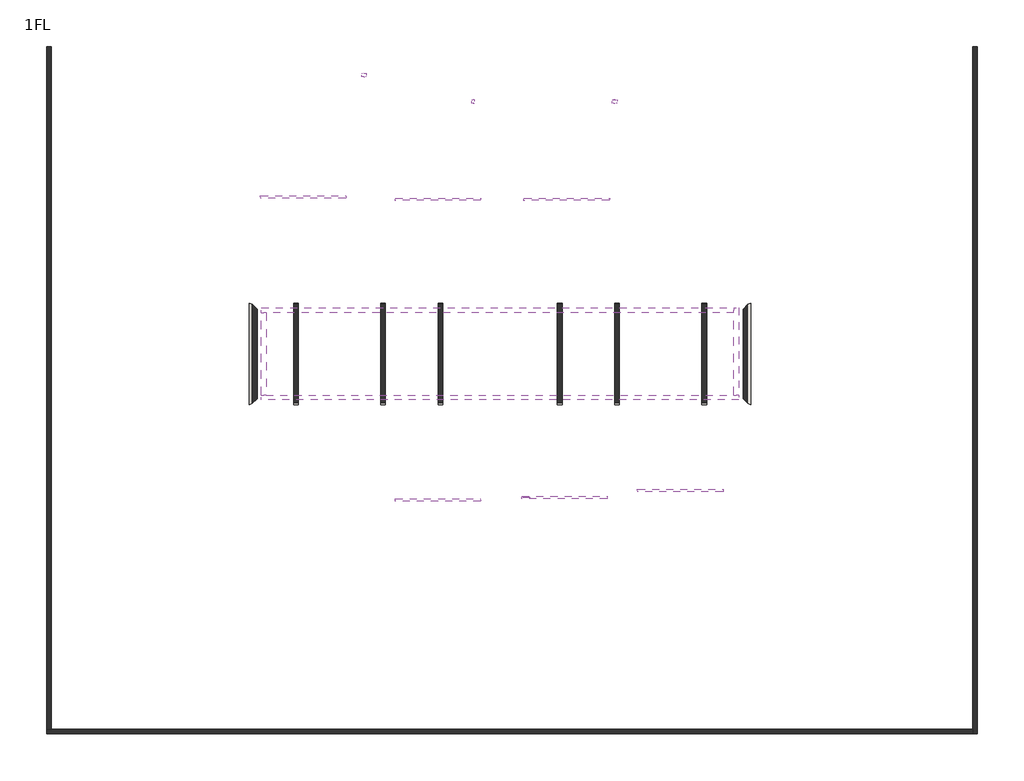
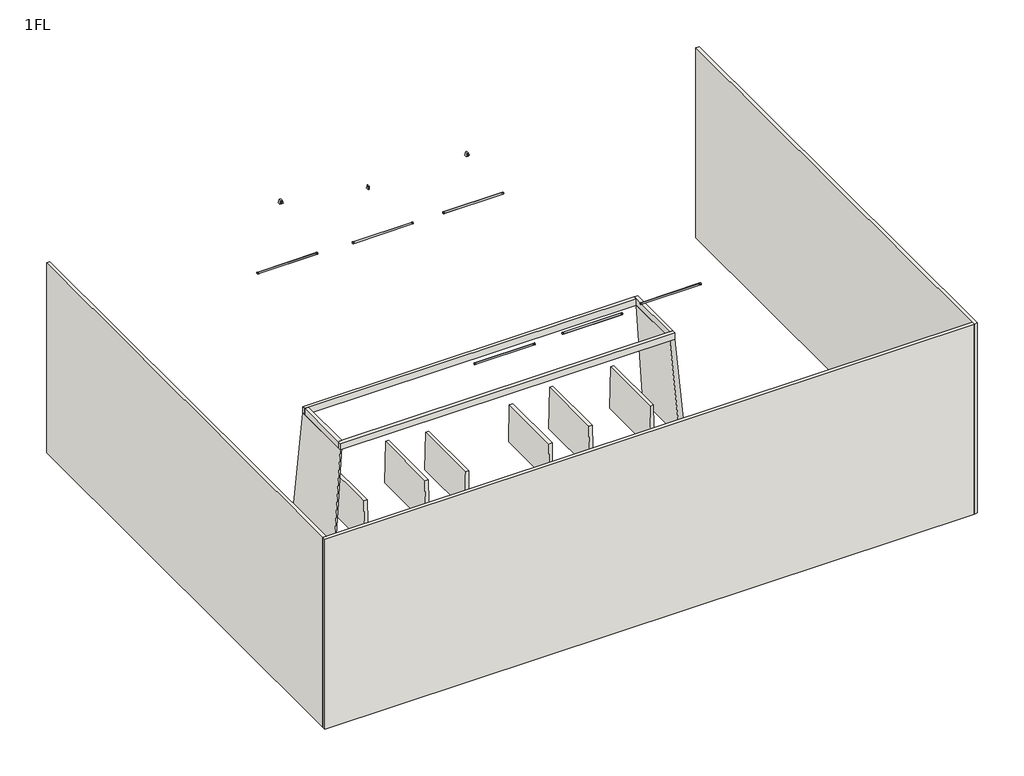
# One storey, incomplete: 15 walls, 10 light fixtures.
"""IFC4 building model written with IfcOpenShell, lengths in millimetres."""

import ifcopenshell
import ifcopenshell.guid

model = None  # the IFC model being written
_history = None  # IfcOwnerHistory: only IFC2X3 demands one
_inside = {}  # id of a spatial element -> (the spatial element, [elements in it])
_under = {}  # id of a project, library or spatial element -> (it, [spatial elements below it])
_declared = {}  # id of a project -> (the project, [libraries it declares])
_typed = {}  # id of a type object -> (the type object, [elements of that type])
_made_of = {}  # id of a material, layer set ... -> (it, [elements and type objects made of it])


def new_model(schema):
    """Start an empty IFC model of exactly this schema.

    Asked for "IFC4X3", IfcOpenShell would pick the latest addendum, in which some entities
    have other attributes; the version numbers below select the first issue.
    IFC2X3 requires an IfcOwnerHistory on every rooted entity: one is made here for all.
    """
    global model, _history
    if schema == "IFC4X3":
        model = ifcopenshell.file(schema_version=(4, 3, 0, 0))
    else:
        model = ifcopenshell.file(schema=schema)
    _inside.clear()
    _under.clear()
    _declared.clear()
    _typed.clear()
    _made_of.clear()
    _history = None
    if model.schema == "IFC2X3":
        org = make("IfcOrganization", Name="unknown")
        user = make(
            "IfcPersonAndOrganization",
            ThePerson=make("IfcPerson", FamilyName="unknown"),
            TheOrganization=org,
        )
        app = make(
            "IfcApplication",
            ApplicationDeveloper=org,
            Version="unknown",
            ApplicationFullName="unknown",
            ApplicationIdentifier="unknown",
        )
        _history = make(
            "IfcOwnerHistory",
            OwningUser=user,
            OwningApplication=app,
            ChangeAction="ADDED",
            CreationDate=0,
        )
    return model


def make(cls, **values):
    """One entity of the class cls with the attributes given. An attribute that is None is left unset."""
    return model.create_entity(
        cls, **{name: value for name, value in values.items() if value is not None}
    )


def rooted(cls, **values):
    """An entity with a GlobalId (a new one), such as an element, a storey or a relation."""
    return make(cls, GlobalId=ifcopenshell.guid.new(), OwnerHistory=_history, **values)


def si_unit(unit_type, name, prefix=None):
    """IfcSIUnit, for example si_unit("LENGTHUNIT", "METRE", prefix="MILLI")."""
    return make("IfcSIUnit", UnitType=unit_type, Prefix=prefix, Name=name)


def assignment(units):
    """IfcUnitAssignment: the units of a project."""
    return None if units is None else make("IfcUnitAssignment", Units=units)


def point(xyz):
    """IfcCartesianPoint."""
    return None if xyz is None else make("IfcCartesianPoint", Coordinates=xyz)


def direction(xyz):
    """IfcDirection."""
    return None if xyz is None else make("IfcDirection", DirectionRatios=xyz)


def frame(location, z_axis=None, x_axis=None):
    """IfcAxis2Placement3D, a coordinate frame: its origin and axes. An axis left out is left unset."""
    return make(
        "IfcAxis2Placement3D",
        Location=point(location),
        Axis=direction(z_axis),
        RefDirection=direction(x_axis),
    )


def frame_2d(location, x_axis=None):
    """IfcAxis2Placement2D, a coordinate frame in the plane: its origin and x axis."""
    return make(
        "IfcAxis2Placement2D", Location=point(location), RefDirection=direction(x_axis)
    )


def origin():
    """The frame at (0, 0, 0) with its axes left unset."""
    return frame((0.0, 0.0, 0.0))


def place(relative_to, where):
    """IfcLocalPlacement: puts the frame where relative to a parent placement (None: the world)."""
    return make(
        "IfcLocalPlacement", PlacementRelTo=relative_to, RelativePlacement=where
    )


def context(
    kind, dimensions, precision=None, world=None, true_north=None, identifier=None
):
    """IfcGeometricRepresentationContext, for example the 3D "Model" context."""
    return make(
        "IfcGeometricRepresentationContext",
        ContextIdentifier=identifier,
        ContextType=kind,
        CoordinateSpaceDimension=dimensions,
        Precision=precision,
        WorldCoordinateSystem=world,
        TrueNorth=true_north,
    )


def project(units=None, contexts=None):
    """IfcProject with its units and contexts."""
    return rooted(
        "IfcProject",
        Name="project",
        RepresentationContexts=contexts,
        UnitsInContext=assignment(units),
    )


def spatial(cls, under=None, at=None, **own):
    """A site, building, storey or space (cls), placed at a placement, below another one or the project."""
    s = rooted(cls, ObjectPlacement=at, **own)
    if under is not None:
        _under.setdefault(under.id(), (under, []))[1].append(s)
    return s


def polyline(points):
    """IfcPolyline through the points."""
    return make("IfcPolyline", Points=[point(p) for p in points])


def circle_curve(where, radius):
    """IfcCircle in the frame where."""
    return make("IfcCircle", Position=where, Radius=radius)


def trimmed(basis, trim1, trim2, sense, master):
    """IfcTrimmedCurve: the piece of a basis curve between two trims."""
    return make(
        "IfcTrimmedCurve",
        BasisCurve=basis,
        Trim1=trim1,
        Trim2=trim2,
        SenseAgreement=sense,
        MasterRepresentation=master,
    )


def segment(curve, same_sense, transition):
    """IfcCompositeCurveSegment."""
    return make(
        "IfcCompositeCurveSegment",
        Transition=transition,
        SameSense=same_sense,
        ParentCurve=curve,
    )


def composite_curve(segments, self_intersect=None):
    """IfcCompositeCurve: segments joined end to end."""
    return make("IfcCompositeCurve", Segments=segments, SelfIntersect=self_intersect)


def outline(outer, holes=None, kind="AREA"):
    """IfcArbitraryClosedProfileDef: a profile drawn as a closed curve; with holes, ...WithVoids."""
    if holes is None:
        return make("IfcArbitraryClosedProfileDef", ProfileType=kind, OuterCurve=outer)
    return make(
        "IfcArbitraryProfileDefWithVoids",
        ProfileType=kind,
        OuterCurve=outer,
        InnerCurves=holes,
    )


def extrude(swept, where, along, depth):
    """IfcExtrudedAreaSolid: the profile swept, set in the frame where, extruded along a direction by depth."""
    return make(
        "IfcExtrudedAreaSolid",
        SweptArea=swept,
        Position=where,
        ExtrudedDirection=direction(along),
        Depth=depth,
    )


def faces_of(points, faces, orient=None, outer=None):
    """IfcFace entities. A face is a list of loops; a loop is a list of indices into points, from 0.

    orient and outer hold one flag for each loop. By default every Orientation is true, the
    first loop of a face is its IfcFaceOuterBound and the others are IfcFaceBound.
    """
    made = []
    for i, loops in enumerate(faces):
        bounds = []
        for j, loop in enumerate(loops):
            is_outer = j == 0 if outer is None else outer[i][j]
            bounds.append(
                make(
                    "IfcFaceOuterBound" if is_outer else "IfcFaceBound",
                    Bound=make("IfcPolyLoop", Polygon=[points[k] for k in loop]),
                    Orientation=True if orient is None else orient[i][j],
                )
            )
        made.append(make("IfcFace", Bounds=bounds))
    return made


def faceted_brep(points, faces, orient=None, outer=None, voids=None):
    """IfcFacetedBrep: a solid bounded by flat faces; with voids (closed shells), ...WithVoids."""
    shared = [point(p) for p in points]
    hull = make("IfcClosedShell", CfsFaces=faces_of(shared, faces, orient, outer))
    if voids is None:
        return make("IfcFacetedBrep", Outer=hull)
    return make(
        "IfcFacetedBrepWithVoids",
        Outer=hull,
        Voids=[
            make(cls, CfsFaces=faces_of(shared, fs, o, b)) for cls, fs, o, b in voids
        ],
    )


def shape(context_of_items, identifier, shape_type, items):
    """IfcShapeRepresentation: the items that make up one representation, for example the "Body"."""
    return make(
        "IfcShapeRepresentation",
        ContextOfItems=context_of_items,
        RepresentationIdentifier=identifier,
        RepresentationType=shape_type,
        Items=items,
    )


def source(mapping_origin, context_of_items, identifier, shape_type, items):
    """IfcRepresentationMap: a shape defined once, which mapped items show again and again."""
    return make(
        "IfcRepresentationMap",
        MappingOrigin=mapping_origin,
        MappedRepresentation=shape(context_of_items, identifier, shape_type, items),
    )


def transform(
    local_origin,
    x_axis=None,
    y_axis=None,
    z_axis=None,
    scale=None,
    scale2=None,
    scale3=None,
    uniform=True,
):
    """IfcCartesianTransformationOperator3D, or its non-uniform kind. x_axis, y_axis, z_axis: its Axis1, 2, 3."""
    if uniform:
        return make(
            "IfcCartesianTransformationOperator3D",
            Axis1=direction(x_axis),
            Axis2=direction(y_axis),
            LocalOrigin=point(local_origin),
            Scale=scale,
            Axis3=direction(z_axis),
        )
    return make(
        "IfcCartesianTransformationOperator3DnonUniform",
        Axis1=direction(x_axis),
        Axis2=direction(y_axis),
        LocalOrigin=point(local_origin),
        Scale=scale,
        Axis3=direction(z_axis),
        Scale2=scale2,
        Scale3=scale3,
    )


def mapped(mapping_source, mapping_target):
    """IfcMappedItem: shows the shape of a source again, moved by a transform."""
    return make(
        "IfcMappedItem", MappingSource=mapping_source, MappingTarget=mapping_target
    )


def made_of(thing, what):
    """Note that an element or type object is made of a material, layer set ...; save() writes the relation."""
    if what is not None:
        _made_of.setdefault(what.id(), (what, []))[1].append(thing)
    return thing


def element(
    cls,
    number,
    at=None,
    inside=None,
    cuts=None,
    type_object=None,
    material=None,
    context=None,
    identifier="Body",
    shape_type=None,
    held_by="IfcProductDefinitionShape",
    body=None,
    shapes=None,
    **own,
):
    """One element of the class cls, such as IfcWall. Its Tag is "e" and its number.

    at: its placement. inside: the storey or other place that contains it. cuts: it is an
    opening in that element (IfcRelVoidsElement). A single representation is given by context,
    identifier, shape_type and body (its items); several are given by shapes. held_by: the class
    of the entity that holds the representations. save() writes the other relations.
    """
    e = rooted(cls, Tag="e%d" % number, ObjectPlacement=at, **own)
    if body is not None:
        shapes = [shape(context, identifier, shape_type, body)]
    if shapes is not None:
        e.Representation = make(held_by, Representations=shapes)
    if inside is not None:
        _inside.setdefault(inside.id(), (inside, []))[1].append(e)
    if cuts is not None:
        rooted(
            "IfcRelVoidsElement", RelatingBuildingElement=cuts, RelatedOpeningElement=e
        )
    if type_object is not None:
        _typed.setdefault(type_object.id(), (type_object, []))[1].append(e)
    return made_of(e, material)


def aggregate(whole, parts):
    """IfcRelAggregates: a whole, such as a stair, and the parts it consists of."""
    return rooted("IfcRelAggregates", RelatingObject=whole, RelatedObjects=parts)


def save(model, path):
    """Write the relations noted so far, then the file.

    IfcRelAggregates (storeys below a building ...), IfcRelContainedInSpatialStructure (elements
    in a storey), IfcRelDefinesByType, IfcRelAssociatesMaterial and IfcRelDeclares: one each for
    every whole, place, type object, material and project.
    """
    for whole, parts in _under.values():
        aggregate(whole, parts)
    for where, things in _inside.values():
        rooted(
            "IfcRelContainedInSpatialStructure",
            RelatedElements=things,
            RelatingStructure=where,
        )
    for kind, things in _typed.values():
        rooted("IfcRelDefinesByType", RelatedObjects=things, RelatingType=kind)
    for what, things in _made_of.values():
        rooted("IfcRelAssociatesMaterial", RelatedObjects=things, RelatingMaterial=what)
    for by, libraries in _declared.values():
        rooted("IfcRelDeclares", RelatingContext=by, RelatedDefinitions=libraries)
    model.write(path)


def light_fixture_87da6989(model_context):
    return source(origin(), model_context, "Body", "SweptSolid", [
        extrude(outline(composite_curve([segment(trimmed(circle_curve(frame_2d((0.0, 11987.3)), 6.35), [point((-6.35, 11987.3))], [point((6.35, 11987.3))], False, "CARTESIAN"), True, "CONTINUOUS"), segment(trimmed(circle_curve(frame_2d((0.0, 11987.3)), 6.35), [point((6.35, 11987.3))], [point((-6.35, 11987.3))], False, "CARTESIAN"), True, "CONTINUOUS")], self_intersect=False)), frame((-130.95, 0.0, 0.0), z_axis=(1.0, 0.0, 0.0), x_axis=(0.0, 1.0, 0.0)), (0.0, 0.0, 1.0), 261.9),
        extrude(outline(composite_curve([segment(polyline([(-7.9375, 12000.0), (7.9375, 12000.0), (7.9375, 11987.3)]), True, "CONTINUOUS"), segment(trimmed(circle_curve(frame_2d((0.0, 11987.3)), 7.9375), [point((7.9375, 11987.3))], [point((-7.9375, 11987.3))], False, "CARTESIAN"), True, "CONTINUOUS"), segment(polyline([(-7.9375, 11987.3), (-7.9375, 12000.0)]), True, "CONTINUOUS")], self_intersect=False)), frame((130.95, 0.0, 0.0), z_axis=(1.0, 0.0, 0.0), x_axis=(0.0, 1.0, 0.0)), (0.0, 0.0, 1.0), 19.05),
        extrude(outline(composite_curve([segment(polyline([(7.9375, 12000.0), (7.9375, 11987.3)]), True, "CONTINUOUS"), segment(trimmed(circle_curve(frame_2d((0.0, 11987.3)), 7.9375), [point((7.9375, 11987.3))], [point((-7.9375, 11987.3))], False, "CARTESIAN"), True, "CONTINUOUS"), segment(polyline([(-7.9375, 11987.3), (-7.9375, 12000.0), (7.9375, 12000.0)]), True, "CONTINUOUS")], self_intersect=False)), frame((-150.0, 0.0, 0.0), z_axis=(1.0, 0.0, 0.0), x_axis=(0.0, 1.0, 0.0)), (0.0, 0.0, 1.0), 19.05),
        extrude(outline(polyline([(130.95, 7.9375), (130.95, -7.9375), (-130.95, -7.9375), (-130.95, 7.9375), (130.95, 7.9375)])), frame((0.0, 0.0, 11996.7197499), z_axis=(0.0, 0.0, 1.0), x_axis=(1.0, 0.0, 0.0)), (0.0, 0.0, 1.0), 3.2802501),
    ])


def light_fixture_135121fe(model_context):
    return source(origin(), model_context, "Body", "SweptSolid", [
        extrude(outline(composite_curve([segment(trimmed(circle_curve(frame_2d((2286.0, 0.0)), 12.7), [point((2286.0, -12.7))], [point((2286.0, 12.7))], False, "CARTESIAN"), True, "CONTINUOUS"), segment(polyline([(2286.0, 12.7), (2438.4, 12.7), (2438.4, -12.7), (2286.0, -12.7)]), True, "CONTINUOUS")], self_intersect=False)), frame((0.0, 76.2, 0.0), z_axis=(0.0, 1.0, 0.0), x_axis=(0.0, 0.0, 1.0)), (0.0, 0.0, 1.0), 12.7),
        extrude(outline(composite_curve([segment(trimmed(circle_curve(frame_2d((2286.0, 0.0)), 12.7), [point((2286.0, -12.7))], [point((2286.0, 12.7))], False, "CARTESIAN"), True, "CONTINUOUS"), segment(polyline([(2286.0, 12.7), (2438.4, 12.7), (2438.4, -12.7), (2286.0, -12.7)]), True, "CONTINUOUS")], self_intersect=False)), frame((0.0, -88.9, 0.0), z_axis=(0.0, 1.0, 0.0), x_axis=(0.0, 0.0, 1.0)), (0.0, 0.0, 1.0), 12.7),
        extrude(outline(polyline([(2486.0, 33.3469894), (2486.0, -33.3196774), (2286.0, -99.9863441), (2286.0, 0.0136559), (2286.0, 100.0136559), (2486.0, 33.3469894)])), frame((0.0, -76.2, 0.0), z_axis=(0.0, 1.0, 0.0), x_axis=(0.0, 0.0, 1.0)), (0.0, 0.0, 1.0), 152.4),
    ])


def light_fixture_da8946fe(model_context):
    return source(origin(), model_context, "Body", "SweptSolid", [
        extrude(outline(composite_curve([segment(trimmed(circle_curve(frame_2d((2286.0, 0.0)), 12.7), [point((2286.0, -12.7))], [point((2286.0, 12.7))], False, "CARTESIAN"), True, "CONTINUOUS"), segment(polyline([(2286.0, 12.7), (2438.4, 12.7), (2438.4, -12.7), (2286.0, -12.7)]), True, "CONTINUOUS")], self_intersect=False)), frame((0.0, 76.2, 0.0), z_axis=(0.0, 1.0, 0.0), x_axis=(0.0, 0.0, 1.0)), (0.0, 0.0, 1.0), 12.7),
        extrude(outline(composite_curve([segment(trimmed(circle_curve(frame_2d((2286.0, 0.0)), 12.7), [point((2286.0, -12.7))], [point((2286.0, 12.7))], False, "CARTESIAN"), True, "CONTINUOUS"), segment(polyline([(2286.0, 12.7), (2438.4, 12.7), (2438.4, -12.7), (2286.0, -12.7)]), True, "CONTINUOUS")], self_intersect=False)), frame((0.0, -88.9, 0.0), z_axis=(0.0, 1.0, 0.0), x_axis=(0.0, 0.0, 1.0)), (0.0, 0.0, 1.0), 12.7),
        extrude(outline(polyline([(2336.1123082, -62.6244663), (2287.8747536, -80.1815003), (2238.0756763, -17.4293714), (2286.0, 0.0136559), (2333.9243237, 17.4566832), (2336.1123082, -62.6244663)])), frame((0.0, -76.2, 0.0), z_axis=(0.0, 1.0, 0.0), x_axis=(0.0, 0.0, 1.0)), (0.0, 0.0, 1.0), 152.4),
    ])


def m_suspended_linear_2_2400mm_e0d50ca2(model_context):
    return source(origin(), model_context, "Body", "SweptSolid", [
        extrude(outline(polyline([(1762.1084676, 25.4), (1762.1084676, -25.4), (-1761.9, -25.4), (-1761.9, 25.4), (1762.1084676, 25.4)])), frame((0.0, 0.0, 2412.7), z_axis=(0.0, 0.0, 1.0), x_axis=(1.0, 0.0, 0.0)), (0.0, 0.0, 1.0), 12.7),
        extrude(outline(composite_curve([segment(trimmed(circle_curve(frame_2d((0.0, 2450.8)), 50.8), [point((-50.8, 2450.8))], [point((50.8, 2450.8))], False, "CARTESIAN"), True, "CONTINUOUS"), segment(trimmed(circle_curve(frame_2d((0.0, 2450.8)), 50.8), [point((50.8, 2450.8))], [point((-50.8, 2450.8))], False, "CARTESIAN"), True, "CONTINUOUS")], self_intersect=False)), frame((1762.1084676, 0.0, 0.0), z_axis=(1.0, 0.0, 0.0), x_axis=(0.0, 1.0, 0.0)), (0.0, 0.0, 1.0), 37.8915324),
        extrude(outline(composite_curve([segment(trimmed(circle_curve(frame_2d((-1.1165929, 2450.8)), 50.81227), [point((49.6956771, 2450.8))], [point((-51.9288628, 2450.8))], False, "CARTESIAN"), True, "CONTINUOUS"), segment(trimmed(circle_curve(frame_2d((-1.1165929, 2450.8)), 50.81227), [point((-51.9288628, 2450.8))], [point((49.6956771, 2450.8))], False, "CARTESIAN"), True, "CONTINUOUS")], self_intersect=False)), frame((-1800.0, 0.0, 0.0), z_axis=(1.0, 0.0, 0.0), x_axis=(0.0, 1.0, 0.0)), (0.0, 0.0, 1.0), 38.1),
        extrude(outline(composite_curve([segment(trimmed(circle_curve(frame_2d((0.0, 2450.8)), 50.8), [point((-25.4, 2406.8059095))], [point((0.0, 2501.6))], False, "CARTESIAN"), True, "CONTINUOUS"), segment(trimmed(circle_curve(frame_2d((0.0, 2450.8)), 50.8), [point((0.0, 2501.6))], [point((25.4, 2406.8059095))], False, "CARTESIAN"), True, "CONTINUOUS"), segment(polyline([(25.4, 2406.8059095), (25.4, 2438.1), (-25.4, 2438.1), (-25.4, 2406.8059095)]), True, "CONTINUOUS")], self_intersect=False)), frame((-1761.9, 0.0, 0.0), z_axis=(1.0, 0.0, 0.0), x_axis=(0.0, 1.0, 0.0)), (0.0, 0.0, 1.0), 3524.0084676),
        extrude(outline(composite_curve([segment(trimmed(circle_curve(frame_2d((-1723.8883785, 0.0)), 25.4), [point((-1749.2883785, 0.0))], [point((-1698.4883785, 0.0))], False, "CARTESIAN"), True, "CONTINUOUS"), segment(trimmed(circle_curve(frame_2d((-1723.8883785, 0.0)), 25.4), [point((-1698.4883785, 0.0))], [point((-1749.2883785, 0.0))], False, "CARTESIAN"), True, "CONTINUOUS")], self_intersect=False)), frame((0.0, 0.0, 2425.7), z_axis=(0.0, 0.0, 1.0), x_axis=(1.0, 0.0, 0.0)), (0.0, 0.0, 1.0), 12.7),
        extrude(outline(composite_curve([segment(trimmed(circle_curve(frame_2d((1723.8, 0.0)), 25.4), [point((1698.4, 0.0))], [point((1749.2, 0.0))], False, "CARTESIAN"), True, "CONTINUOUS"), segment(trimmed(circle_curve(frame_2d((1723.8, 0.0)), 25.4), [point((1749.2, 0.0))], [point((1698.4, 0.0))], False, "CARTESIAN"), True, "CONTINUOUS")], self_intersect=False)), frame((0.0, 0.0, 2425.7), z_axis=(0.0, 0.0, 1.0), x_axis=(1.0, 0.0, 0.0)), (0.0, 0.0, 1.0), 12.7),
        extrude(outline(composite_curve([segment(trimmed(circle_curve(frame_2d((-1723.8, 0.0)), 3.175), [point((-1723.8, 3.175))], [point((-1723.8, -3.175))], False, "CARTESIAN"), True, "CONTINUOUS"), segment(trimmed(circle_curve(frame_2d((-1723.8, 0.0)), 3.175), [point((-1723.8, -3.175))], [point((-1723.8, 3.175))], False, "CARTESIAN"), True, "CONTINUOUS")], self_intersect=False)), frame((0.0, 0.0, 2425.7), z_axis=(0.0, 0.0, 1.0), x_axis=(1.0, 0.0, 0.0)), (0.0, 0.0, 1.0), 63.2),
        extrude(outline(composite_curve([segment(trimmed(circle_curve(frame_2d((1723.8, 0.0)), 3.175), [point((1723.8, 3.175))], [point((1723.8, -3.175))], False, "CARTESIAN"), True, "CONTINUOUS"), segment(trimmed(circle_curve(frame_2d((1723.8, 0.0)), 3.175), [point((1723.8, -3.175))], [point((1723.8, 3.175))], False, "CARTESIAN"), True, "CONTINUOUS")], self_intersect=False)), frame((0.0, 0.0, 2425.7), z_axis=(0.0, 0.0, 1.0), x_axis=(1.0, 0.0, 0.0)), (0.0, 0.0, 1.0), 63.2),
    ])


model = new_model("IFC4")

# Units and contexts
model_context = context("Model", 3, world=origin())
ifc_project = project(units=[si_unit("LENGTHUNIT", "METRE", prefix="MILLI")], contexts=[model_context])

# Site, building, storey
site = spatial("IfcSite", under=ifc_project)
building = spatial("IfcBuilding", under=site)
storey = spatial("IfcBuildingStorey", under=building, Name="1FL", Elevation=300.0)

# Light fixtures
placement = place(None, origin())
light_fixture_shape = light_fixture_87da6989(model_context)
element("IfcLightFixture", 1, ObjectType="層板燈 (3)-向下照射 : 10W層板燈-TEST", at=placement, inside=storey, context=model_context, shape_type="MappedRepresentation", body=[
    mapped(light_fixture_shape, transform((1234.5714763, -6566.2980256, 300.0), x_axis=(1.0, 0.0, 0.0), y_axis=(0.0, 1.0, 0.0), z_axis=(0.0, 0.0, 1.0))),
])
light_fixture_2_shape = light_fixture_135121fe(model_context)
element("IfcLightFixture", 2, ObjectType="M_嵌燈 - 聚光燈 : 傾斜 90 度", at=placement, inside=storey, context=model_context, shape_type="MappedRepresentation", body=[
    mapped(light_fixture_2_shape, transform((4934.5714763, 10035.3015503, 9861.6), x_axis=(1.0, 0.0, 0.0), y_axis=(0.0, 1.0, 0.0), z_axis=(0.0, 0.0, 1.0))),
])
element("IfcLightFixture", 3, ObjectType="M_嵌燈 - 聚光燈 : 傾斜 90 度", at=placement, inside=storey, context=model_context, shape_type="MappedRepresentation", body=[
    mapped(light_fixture_2_shape, transform((-5565.4285237, 11135.3015503, 9861.6), x_axis=(1.0, 0.0, 0.0), y_axis=(0.0, 1.0, 0.0), z_axis=(0.0, 0.0, 1.0))),
])
light_fixture_3_shape = light_fixture_da8946fe(model_context)
element("IfcLightFixture", 4, ObjectType="M_嵌燈 - 聚光燈 : 160度-瓦數100", at=placement, inside=storey, context=model_context, shape_type="MappedRepresentation", body=[
    mapped(light_fixture_3_shape, transform((-965.4285237, 10035.3015503, 9861.6), x_axis=(1.0, 0.0, 0.0), y_axis=(0.0, 1.0, 0.0), z_axis=(0.0, 0.0, 1.0))),
])
m_suspended_linear_2_2400mm_shape = m_suspended_linear_2_2400mm_e0d50ca2(model_context)
element("IfcLightFixture", 5, ObjectType="M_Suspended Linear 2 : 2400mm", at=placement, inside=storey, context=model_context, shape_type="MappedRepresentation", body=[
    mapped(m_suspended_linear_2_2400mm_shape, transform((2934.5714763, 5935.3015503, 9874.3), x_axis=(1.0, 0.0, 0.0), y_axis=(0.0, 1.0, 0.0), z_axis=(0.0, 0.0, 1.0))),
])
element("IfcLightFixture", 6, ObjectType="M_Suspended Linear 2 : 2400mm", at=placement, inside=storey, context=model_context, shape_type="MappedRepresentation", body=[
    mapped(m_suspended_linear_2_2400mm_shape, transform((-2465.4285237, 5935.3015503, 9874.3), x_axis=(1.0, 0.0, 0.0), y_axis=(0.0, 1.0, 0.0), z_axis=(0.0, 0.0, 1.0))),
])
element("IfcLightFixture", 7, ObjectType="M_Suspended Linear 2 : 2400mm", at=placement, inside=storey, context=model_context, shape_type="MappedRepresentation", body=[
    mapped(m_suspended_linear_2_2400mm_shape, transform((-8115.4285237, 6035.3015503, 9874.3), x_axis=(1.0, 0.0, 0.0), y_axis=(0.0, 1.0, 0.0), z_axis=(0.0, 0.0, 1.0))),
])
element("IfcLightFixture", 8, ObjectType="M_Suspended Linear 2 : 2400mm", at=placement, inside=storey, context=model_context, shape_type="MappedRepresentation", body=[
    mapped(m_suspended_linear_2_2400mm_shape, transform((7684.5714763, -6264.6984497, 9874.3), x_axis=(1.0, 0.0, 0.0), y_axis=(0.0, 1.0, 0.0), z_axis=(0.0, 0.0, 1.0))),
])
element("IfcLightFixture", 9, ObjectType="M_Suspended Linear 2 : 2400mm", at=placement, inside=storey, context=model_context, shape_type="MappedRepresentation", body=[
    mapped(m_suspended_linear_2_2400mm_shape, transform((2834.5714763, -6564.6984497, 9874.3), x_axis=(1.0, 0.0, 0.0), y_axis=(0.0, 1.0, 0.0), z_axis=(0.0, 0.0, 1.0))),
])
element("IfcLightFixture", 10, ObjectType="M_Suspended Linear 2 : 2400mm-990515-test", at=placement, inside=storey, context=model_context, shape_type="MappedRepresentation", body=[
    mapped(m_suspended_linear_2_2400mm_shape, transform((-2465.4285237, -6664.6984497, 9874.3), x_axis=(1.0, 0.0, 0.0), y_axis=(0.0, 1.0, 0.0), z_axis=(0.0, 0.0, 1.0))),
])

# Walls
element("IfcWall", 11, ObjectType="空心磚牆", at=placement, inside=storey, context=model_context, shape_type="Brep", body=[
    faceted_brep([(-9865.4285238, -2466.2980256, 6299.9999997), (10134.5714762, -2466.2980256, 6299.9999997), (10134.5714762, -2466.2980256, 6699.9999999), (-9865.4285238, -2466.2980256, 6699.9999999), (-9865.4285238, -2266.2980256, 6299.9999997), (-9865.4285238, -2266.2980256, 6699.9999999), (-9665.4285238, -2266.2980256, 6699.9999999), (9934.5714762, -2266.2980256, 6699.9999999), (10134.5714762, -2266.2980256, 6699.9999999), (10134.5714762, -2266.2980256, 6299.9999997), (9934.5714762, -2266.2980256, 6299.9999997), (-9665.4285238, -2266.2980256, 6299.9999997)], [[[0, 1, 2, 3]], [[4, 5, 6, 7, 8, 9, 10, 11]], [[1, 0, 4, 11, 10, 9]], [[3, 2, 8, 7, 6, 5]], [[2, 1, 9, 8]], [[0, 3, 5, 4]]]),
])
element("IfcWall", 12, ObjectType="空心磚牆", at=placement, inside=storey, context=model_context, shape_type="Brep", body=[
    faceted_brep([(9933.9425834, 1183.6012191, 6299.9999997), (10433.9425835, 1383.6012191, 0.0), (10433.9425835, -2466.1972695, 0.0), (9933.9425834, -2266.1972699, 6299.9999997), (10134.5714762, 1383.7019747, 6299.9999997), (10134.5714762, -2466.2980256, 6299.9999997), (10634.5714763, -2666.2980252, 0.0), (10634.5714763, 1583.7019748, 0.0)], [[[0, 1, 2, 3]], [[4, 5, 6, 7]], [[5, 4, 0, 3]], [[7, 6, 2, 1]], [[6, 5, 3, 2]], [[4, 7, 1, 0]]]),
])
element("IfcWall", 13, ObjectType="空心磚牆", at=placement, inside=storey, context=model_context, shape_type="Brep", body=[
    faceted_brep([(10134.5714762, -2266.2980256, 6299.9999997), (10134.5714762, 1383.7019747, 6299.9999997), (10134.5714762, 1383.7019747, 6699.9999999), (10134.5714762, -2266.2980256, 6699.9999999), (9934.5714762, -2266.2980256, 6299.9999997), (9934.5714762, -2266.2980256, 6699.9999999), (9934.5714762, 1183.7019747, 6699.9999999), (9934.5714762, 1383.7019747, 6699.9999999), (9934.5714762, 1383.7019747, 6299.9999997), (9934.5714762, 1183.7019747, 6299.9999997)], [[[0, 1, 2, 3]], [[4, 5, 6, 7, 8, 9]], [[1, 0, 4, 9, 8]], [[3, 2, 7, 6, 5]], [[2, 1, 8, 7]], [[0, 3, 5, 4]]]),
])
element("IfcWall", 14, ObjectType="空心磚牆", at=placement, inside=storey, context=model_context, shape_type="Brep", body=[
    faceted_brep([(9934.5714762, 1383.7019747, 6299.9999997), (-9865.4285238, 1383.7019747, 6299.9999997), (-9865.4285238, 1383.7019747, 6699.9999999), (9934.5714762, 1383.7019747, 6699.9999999), (9934.5714762, 1183.7019747, 6299.9999997), (9934.5714762, 1183.7019747, 6699.9999999), (-9665.4285238, 1183.7019747, 6699.9999999), (-9865.4285238, 1183.7019747, 6699.9999999), (-9865.4285238, 1183.7019747, 6299.9999997), (-9665.4285238, 1183.7019747, 6299.9999997)], [[[0, 1, 2, 3]], [[4, 5, 6, 7, 8, 9]], [[1, 0, 4, 9, 8]], [[3, 2, 7, 6, 5]], [[2, 1, 8, 7]], [[0, 3, 5, 4]]]),
])
element("IfcWall", 15, ObjectType="空心磚牆", at=placement, inside=storey, context=model_context, shape_type="Brep", body=[
    faceted_brep([(-9664.799631, -2266.1972699, 6299.9999997), (-10164.7996308, -2466.1972695, 0.0), (-10164.7996308, 1383.6012191, 0.0), (-9664.799631, 1183.6012191, 6299.9999997), (-9865.4285238, -2466.2980256, 6299.9999997), (-9865.4285238, 1383.7019747, 6299.9999997), (-10365.4285237, 1583.7019748, 0.0), (-10365.4285237, -2666.2980252, 0.0)], [[[0, 1, 2, 3]], [[4, 5, 6, 7]], [[5, 4, 0, 3]], [[7, 6, 2, 1]], [[4, 7, 1, 0]], [[6, 5, 3, 2]]]),
])
element("IfcWall", 16, ObjectType="空心磚牆", at=placement, inside=storey, context=model_context, shape_type="SweptSolid", body=[
    extrude(outline(polyline([(-9865.4285238, -2266.2980256), (-9865.4285238, 1183.7019747), (-9665.4285238, 1183.7019747), (-9665.4285238, -2266.2980256), (-9865.4285238, -2266.2980256)])), frame((0.0, 0.0, 6299.9999997), z_axis=(0.0, 0.0, 1.0), x_axis=(1.0, 0.0, 0.0)), (0.0, 0.0, 1.0), 400.0000002),
])
element("IfcWall", 17, ObjectType="空心磚牆", at=placement, inside=storey, context=model_context, shape_type="SweptSolid", body=[
    extrude(outline(polyline([(-2581.3773904, 2674.9999998), (1498.7813398, 2674.9999998), (1583.7019748, 0.0), (-2666.2980252, 0.0), (-2581.3773904, 2674.9999998)])), frame((-8515.4285237, 0.0, 0.0), z_axis=(1.0, 0.0, 0.0), x_axis=(0.0, 1.0, 0.0)), (0.0, 0.0, 1.0), 200.0),
])
element("IfcWall", 18, ObjectType="空心磚牆", at=placement, inside=storey, context=model_context, shape_type="SweptSolid", body=[
    extrude(outline(polyline([(-2590.1075492, 2399.9999998), (1507.5114986, 2399.9999998), (1583.7019748, 0.0), (-2666.2980252, 0.0), (-2590.1075492, 2399.9999998)])), frame((-2465.4285237, 0.0, 0.0), z_axis=(1.0, 0.0, 0.0), x_axis=(0.0, 1.0, 0.0)), (0.0, 0.0, 1.0), 200.0),
])
element("IfcWall", 19, ObjectType="空心磚牆", at=placement, inside=storey, context=model_context, shape_type="SweptSolid", body=[
    extrude(outline(polyline([(-2581.3773904, 2675.0), (1498.7813398, 2675.0), (1583.7019748, 0.0), (-2666.2980252, 0.0), (-2581.3773904, 2675.0)])), frame((4934.5714763, 0.0, 0.0), z_axis=(1.0, 0.0, 0.0), x_axis=(0.0, 1.0, 0.0)), (0.0, 0.0, 1.0), 200.0),
])
element("IfcWall", 20, ObjectType="空心磚牆", at=placement, inside=storey, context=model_context, shape_type="SweptSolid", body=[
    extrude(outline(polyline([(1498.7813398, 2675.0), (1583.7019748, 0.0), (-2666.2980252, 0.0), (-2581.3773904, 2675.0), (1498.7813398, 2675.0)])), frame((8584.5714763, 0.0, 0.0), z_axis=(1.0, 0.0, 0.0), x_axis=(0.0, 1.0, 0.0)), (0.0, 0.0, 1.0), 200.0),
])
element("IfcWall", 21, ObjectType="空心磚牆", at=placement, inside=storey, context=model_context, shape_type="SweptSolid", body=[
    extrude(outline(polyline([(1507.5114986, 2399.9999998), (1583.7019748, 0.0), (-2666.2980252, 0.0), (-2590.1075492, 2399.9999998), (1507.5114986, 2399.9999998)])), frame((2534.5714763, 0.0, 0.0), z_axis=(1.0, 0.0, 0.0), x_axis=(0.0, 1.0, 0.0)), (0.0, 0.0, 1.0), 200.0),
])
element("IfcWall", 22, ObjectType="空心磚牆", at=placement, inside=storey, context=model_context, shape_type="SweptSolid", body=[
    extrude(outline(polyline([(1498.7813398, 2674.9999998), (1583.7019748, 0.0), (-2666.2980252, 0.0), (-2581.3773904, 2674.9999998), (1498.7813398, 2674.9999998)])), frame((-4865.4285237, 0.0, 0.0), z_axis=(1.0, 0.0, 0.0), x_axis=(0.0, 1.0, 0.0)), (0.0, 0.0, 1.0), 200.0),
])
element("IfcWall", 23, ObjectType="空心磚牆", at=placement, inside=storey, context=model_context, shape_type="Brep", body=[
    faceted_brep([(19934.5714762, 12335.3015503, 300.0), (19934.5714762, -16264.6984497, 300.0), (19934.5714762, -16464.6984497, 300.0), (19934.5714762, -16464.6984497, 12300.0), (19934.5714762, -16264.6984497, 12300.0), (19934.5714762, 12335.3015503, 12300.0), (20134.5714762, 12335.3015503, 300.0), (20134.5714762, 12335.3015503, 12300.0), (20134.5714762, -16464.6984497, 12300.0), (20134.5714762, -16464.6984497, 300.0)], [[[0, 1, 2, 3, 4, 5]], [[6, 7, 8, 9]], [[2, 1, 0, 6, 9]], [[5, 4, 3, 8, 7]], [[0, 5, 7, 6]], [[3, 2, 9, 8]]]),
])
element("IfcWall", 24, ObjectType="空心磚牆", at=placement, inside=storey, context=model_context, shape_type="Brep", body=[
    faceted_brep([(19934.5714762, -16264.6984497, 300.0), (-18665.4285238, -16264.6984497, 300.0), (-18865.4285238, -16264.6984497, 300.0), (-18865.4285238, -16264.6984497, 12300.0), (-18665.4285238, -16264.6984497, 12300.0), (19934.5714762, -16264.6984497, 12300.0), (19934.5714762, -16464.6984497, 300.0), (19934.5714762, -16464.6984497, 12300.0), (-18865.4285238, -16464.6984497, 12300.0), (-18865.4285238, -16464.6984497, 300.0)], [[[0, 1, 2, 3, 4, 5]], [[6, 7, 8, 9]], [[2, 1, 0, 6, 9]], [[5, 4, 3, 8, 7]], [[0, 5, 7, 6]], [[3, 2, 9, 8]]]),
])
element("IfcWall", 25, ObjectType="空心磚牆", at=placement, inside=storey, context=model_context, shape_type="SweptSolid", body=[
    extrude(outline(polyline([(-18665.4285238, 12335.3015503), (-18665.4285238, -16264.6984497), (-18865.4285238, -16264.6984497), (-18865.4285238, 12335.3015503), (-18665.4285238, 12335.3015503)])), frame((0.0, 0.0, 300.0), z_axis=(0.0, 0.0, 1.0), x_axis=(1.0, 0.0, 0.0)), (0.0, 0.0, 1.0), 12000.0),
])

save(model, "model.ifc")
